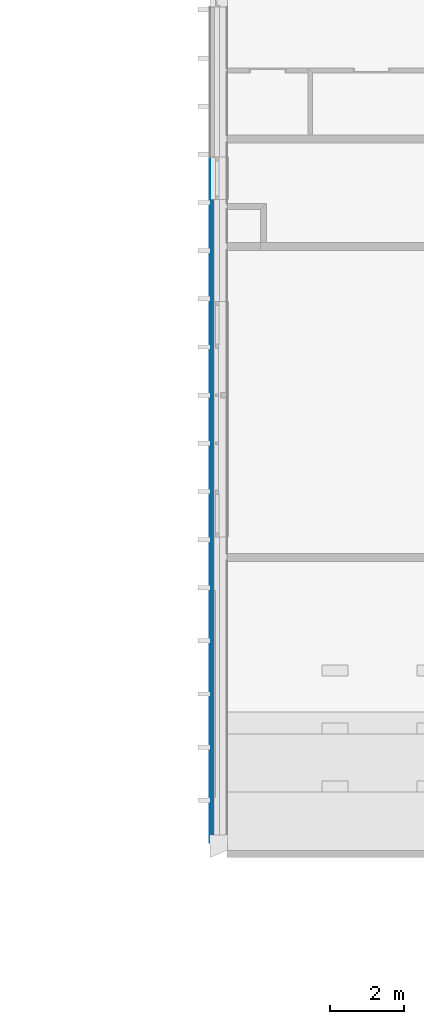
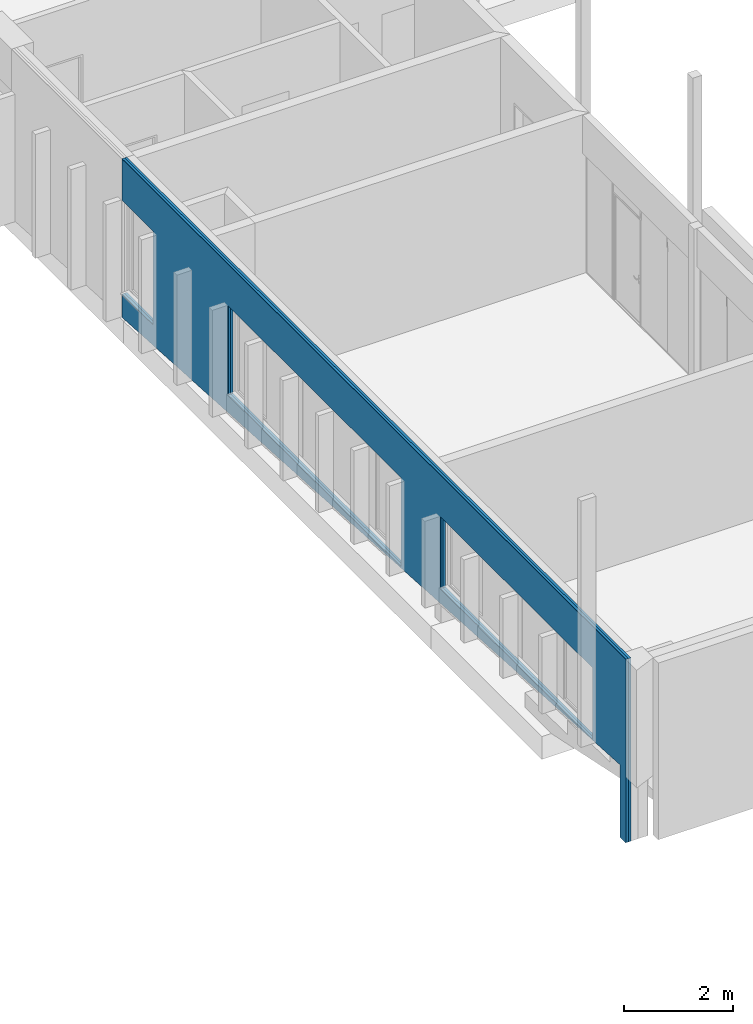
# One storey, part 62 of 65: 3 building element parts, 3 openings, 1 element without a shape of its own.
"""IFC2X3 building model written with IfcOpenShell, lengths in millimetres."""

from ifc_helpers import new_model, entity, si_unit, converted_unit, derived_unit, money_unit, direction, frame, origin_with_axes, origin_2d_with_axis, place, context, subcontext, project, spatial, polyline, rectangle, outline, extrude, boolean, faceted_brep, material, type_object, element, aggregate, save


model = new_model("IFC2X3")

# Units and contexts
model_context = context("Model", 3, precision=0.01, world=origin_with_axes(), true_north=direction((0.0, 1.0)))
body_context = subcontext(model_context, "Body", "Model", "MODEL_VIEW")
ifc_project = project(units=[si_unit("LENGTHUNIT", "METRE", prefix="MILLI"), si_unit("AREAUNIT", "SQUARE_METRE"), si_unit("VOLUMEUNIT", "CUBIC_METRE"), converted_unit("PLANEANGLEUNIT", "DEGREE", entity("IfcPlaneAngleMeasure", 0.0174532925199), si_unit("PLANEANGLEUNIT", "RADIAN"), dimensions=[0, 0, 0, 0, 0, 0, 0]), si_unit("SOLIDANGLEUNIT", "STERADIAN"), money_unit("EUR"), converted_unit("TIMEUNIT", "Year", entity("IfcTimeMeasure", 31556926.0), si_unit("TIMEUNIT", "SECOND"), dimensions=[0, 0, 1, 0, 0, 0, 0]), si_unit("MASSUNIT", "GRAM", prefix="KILO"), si_unit("THERMODYNAMICTEMPERATUREUNIT", "DEGREE_CELSIUS"), si_unit("LUMINOUSINTENSITYUNIT", "LUMEN"), si_unit("ENERGYUNIT", "JOULE", prefix="MEGA"), derived_unit("THERMALCONDUCTANCEUNIT", [(si_unit("POWERUNIT", "WATT"), 1), (si_unit("LENGTHUNIT", "METRE"), -1), (si_unit("THERMODYNAMICTEMPERATUREUNIT", "KELVIN"), -1)]), derived_unit("SPECIFICHEATCAPACITYUNIT", [(si_unit("ENERGYUNIT", "JOULE"), 1), (si_unit("MASSUNIT", "GRAM", prefix="KILO"), -1), (si_unit("THERMODYNAMICTEMPERATUREUNIT", "KELVIN"), -1)]), derived_unit("MASSDENSITYUNIT", [(si_unit("MASSUNIT", "GRAM", prefix="KILO"), 1), (si_unit("VOLUMEUNIT", "CUBIC_METRE"), -1)])], contexts=[model_context])

# Site, building, storey
site_placement = place(None, origin_with_axes())
site = spatial("IfcSite", under=ifc_project, at=site_placement, Name="Puškini 31, Narva", CompositionType="ELEMENT")
building_placement = place(site_placement, origin_with_axes())
building = spatial("IfcBuilding", under=site, at=building_placement, Name="Narva Riigigümnaasium", CompositionType="ELEMENT")
storey_placement = place(building_placement, frame((0.0, 0.0, -1320.0), z_axis=(0.0, 0.0, 1.0), x_axis=(1.0, 0.0, 0.0)))
storey = spatial("IfcBuildingStorey", under=building, at=storey_placement, Name="1.korrus -1.32", CompositionType="ELEMENT", Elevation=-1320.0)

# Wall, openings, building element parts
wall_type = type_object("IfcWallType", Name="G-VS-01 468", PredefinedType="NOTDEFINED")
wall_placement = place(storey_placement, frame((22399.9999985, 159399.999992, -150.0), z_axis=(0.0, 0.0, 1.0), x_axis=(0.0, 1.0, 0.0)))
wall = element("IfcWall", 1, at=wall_placement, inside=storey, type_object=wall_type, Name="Välissein")
opening_1_placement = place(wall_placement, frame((11435.1499909, 0.0, 1180.0), z_axis=(0.0, 0.0, 1.0), x_axis=(1.0, 0.0, 0.0)))
element("IfcOpeningElement", 2, at=opening_1_placement, cuts=wall, Name="G-A-34", context=body_context, shape_type="SweptSolid", body=[
    extrude(rectangle(XDim=6350.0, YDim=2000.0, at=origin_2d_with_axis()), frame((0.0, 308.0, 1000.0), z_axis=(0.0, 1.0, 0.0), x_axis=(-1.0, 0.0, 0.0)), (0.0, 0.0, -1.0), 786.0),
    extrude(rectangle(XDim=6350.0, YDim=2000.0, at=origin_2d_with_axis()), frame((0.0, 308.0, 1000.0), z_axis=(0.0, -1.0, 0.0), x_axis=(-1.0, 0.0, 0.0)), (0.0, 0.0, -1.0), 618.0),
])
opening_2_placement = place(wall_placement, frame((17935.1499909, 0.0, 1080.0), z_axis=(0.0, 0.0, 1.0), x_axis=(1.0, 0.0, 0.0)))
element("IfcOpeningElement", 3, at=opening_2_placement, cuts=wall, Name="G-A-29", context=body_context, shape_type="SweptSolid", body=[
    extrude(rectangle(XDim=1150.0, YDim=2100.0, at=origin_2d_with_axis()), frame((0.0, 308.0, 1050.0), z_axis=(0.0, 1.0, 0.0), x_axis=(-1.0, 0.0, 0.0)), (0.0, 0.0, -1.0), 786.0),
    extrude(rectangle(XDim=1150.0, YDim=2100.0, at=origin_2d_with_axis()), frame((0.0, 308.0, 1050.0), z_axis=(0.0, -1.0, 0.0), x_axis=(-1.0, 0.0, 0.0)), (0.0, 0.0, -1.0), 618.0),
])
opening_3_placement = place(wall_placement, frame((4017.57498516, 0.0, 1570.0), z_axis=(0.0, 0.0, 1.0), x_axis=(1.0, 0.0, 0.0)))
element("IfcOpeningElement", 4, at=opening_3_placement, cuts=wall, Name="G-A-33", context=body_context, shape_type="SweptSolid", body=[
    extrude(rectangle(XDim=5585.15001141, YDim=1610.0, at=origin_2d_with_axis()), frame((0.0, 308.0, 805.0), z_axis=(0.0, 1.0, 0.0), x_axis=(-1.0, 0.0, 0.0)), (0.0, 0.0, -1.0), 786.0),
    extrude(rectangle(XDim=5585.15001141, YDim=1610.0, at=origin_2d_with_axis()), frame((0.0, 308.0, 805.0), z_axis=(0.0, -1.0, 0.0), x_axis=(-1.0, 0.0, 0.0)), (0.0, 0.0, -1.0), 618.0),
])
ifc_material_1 = material(Name="Salto-PIR soojustus")
building_element_part_1_placement = place(wall_placement, origin_with_axes())
solid_1 = boolean("DIFFERENCE", boolean("DIFFERENCE", boolean("DIFFERENCE", boolean("DIFFERENCE", boolean("DIFFERENCE", boolean("DIFFERENCE", boolean("DIFFERENCE", boolean("DIFFERENCE", extrude(outline(polyline([(-249.999991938, 350.0), (18510.1499995, 350.0), (18510.1499995, 400.0), (-249.999991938, 400.0), (-249.999991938, 350.0)])), origin_with_axes(), (0.0, 0.0, 1.0), 4110.0), faceted_brep([(17250.0001235, 0.0, 632.298081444), (18510.1499995, 0.0, 559.236469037), (18510.1499995, 0.0, 0.0), (210.000008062, 0.0, 0.0), (210.000008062, 0.0, 1620.25190156), (7609.99994589, 0.0, 1191.21092985), (7609.99994359, 0.0, 3705.0), (1.23677068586e-06, 0.0, 3705.0), (8.06181787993e-06, 0.0, 1470.0), (8.06181787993e-06, 0.0, 640.0), (0.0, 0.0, 0.0), (-249.999991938, 0.0, 0.0), (-249.999991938, 0.0, 4110.0), (18510.1499995, 0.0, 4110.0), (18510.1499995, 0.0, 3705.0), (17250.0001235, 0.0, 3705.0), (7799.99994358, 0.0, 1180.19501305), (16000.0001235, 0.0, 704.771219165), (16000.0001235, 0.0, 3705.0), (7799.99994358, 0.0, 3705.0), (16200.0001235, 0.0, 693.17551713), (17100.0001235, 0.0, 640.994857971), (17100.0001235, 0.0, 3705.0), (16200.0001235, 0.0, 3705.0), (17250.0001235, -10.0, 632.298081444), (18510.1499995, -10.0, 559.236469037), (18510.1499995, -10.0, 0.0), (210.000008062, -10.0, 0.0), (210.000008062, -10.0, 1620.25190156), (7609.99994589, -10.0, 1191.21092985), (7609.99994359, -10.0, 3705.0), (1.23677068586e-06, -10.0, 3705.0), (8.06181787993e-06, -10.0, 1470.0), (8.06181787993e-06, -10.0, 640.0), (0.0, -10.0, 0.0), (-249.999991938, -10.0, 0.0), (-249.999991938, -10.0, 4110.0), (18510.1499995, -10.0, 4110.0), (18510.1499995, -9.99999999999, 3705.0), (17250.0001235, -10.0, 3705.0), (7799.99994358, -10.0, 1180.19501305), (16000.0001235, -10.0, 704.771219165), (16000.0001235, -10.0, 3705.0), (7799.99994358, -10.0, 3705.0), (16200.0001235, -10.0, 693.17551713), (17100.0001235, -10.0, 640.994857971), (17100.0001235, -10.0, 3705.0), (16200.0001235, -10.0, 3705.0)], [[[0, 1, 2, 3, 4, 5, 6, 7, 8, 9, 10, 11, 12, 13, 14, 15], [16, 17, 18, 19], [20, 21, 22, 23]], [[24, 25, 1, 0]], [[1, 25, 26, 2]], [[27, 3, 2, 26]], [[27, 28, 4, 3]], [[28, 29, 5, 4]], [[29, 30, 6, 5]], [[30, 31, 7, 6]], [[31, 32, 33, 34, 10, 9, 8, 7]], [[10, 34, 35, 11]], [[36, 12, 11, 35]], [[13, 12, 36, 37]], [[38, 14, 13, 37]], [[14, 38, 39, 15]], [[39, 24, 0, 15]], [[40, 41, 17, 16]], [[41, 42, 18, 17]], [[42, 43, 19, 18]], [[43, 40, 16, 19]], [[44, 45, 21, 20]], [[45, 46, 22, 21]], [[46, 47, 23, 22]], [[47, 44, 20, 23]], [[24, 39, 38, 37, 36, 35, 34, 33, 32, 31, 30, 29, 28, 27, 26, 25], [40, 43, 42, 41], [44, 47, 46, 45]]])), faceted_brep([(18510.1499995, 200.0, 559.236469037), (18510.1499995, 0.0, 559.236469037), (18510.1499995, 0.0, 0.0), (18510.1499995, 200.0, 0.0), (17250.0001235, 0.0, 632.298081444), (210.000008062, 200.0, 1620.25190156), (210.000008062, 0.0, 1620.25190156), (7609.99994589, 0.0, 1191.21092985), (7799.99994358, 0.0, 1180.19501305), (16000.0001235, 0.0, 704.771219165), (16200.0001235, 0.0, 693.17551713), (17100.0001235, 0.0, 640.994857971), (210.000008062, 0.0, 0.0), (210.000008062, 200.0, 0.0)], [[[0, 1, 2, 3]], [[4, 1, 0, 5, 6, 7, 8, 9, 10, 11]], [[6, 12, 2, 1, 4, 11, 10, 9, 8, 7]], [[12, 13, 3, 2]], [[5, 0, 3, 13]], [[12, 6, 5, 13]]])), faceted_brep([(18510.1499995, 0.0, 3705.0), (18510.1499995, 0.0, 4110.0), (-249.999991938, 0.0, 4110.0), (-249.999991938, 0.0, 0.0), (0.0, 0.0, 0.0), (8.06181787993e-06, 0.0, 640.0), (8.06181787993e-06, 0.0, 1470.0), (1.23677068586e-06, 0.0, 3705.0), (18510.1499995, 199.999955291, 3705.0), (18510.1499995, 200.0, 4110.0), (-249.999991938, 200.0, 4110.0), (-249.999991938, 200.0, 0.0), (0.0, 200.0, 0.0), (8.06181787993e-06, 200.0, 640.0), (8.06181787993e-06, 200.0, 1470.0), (1.23674226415e-06, 199.999955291, 3705.0)], [[[0, 1, 2, 3, 4, 5, 6, 7]], [[0, 8, 9, 1]], [[9, 10, 2, 1]], [[2, 10, 11, 3]], [[12, 4, 3, 11]], [[5, 4, 12, 13]], [[13, 14, 6, 5]], [[7, 6, 14, 15]], [[8, 0, 7, 15]], [[13, 12, 11, 10, 9, 8, 15, 14]]])), faceted_brep([(12010.1512799, 25.0, 3250.0), (12010.1512799, 175.0, 3250.0), (12010.1512799, 175.0, 1080.0), (12010.1512799, 25.0, 1080.0), (12160.1512799, 25.0, 3250.0), (12160.1512799, 175.0, 3250.0), (12160.1512799, 175.0, 1080.0), (12160.1512799, 25.0, 1080.0)], [[[0, 1, 2, 3]], [[4, 5, 1, 0]], [[1, 5, 6, 2]], [[7, 3, 2, 6]], [[4, 0, 3, 7]], [[5, 4, 7, 6]]])), faceted_brep([(8.06181787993e-06, 200.0, 1470.0), (1.23674226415e-06, 199.999955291, 3705.0), (0.0, 200.0, 4110.0), (-249.999991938, 200.0, 4110.0), (-249.999991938, 200.0, 0.0), (0.0, 200.0, 0.0), (8.06181787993e-06, 200.0, 640.0), (0.0, 350.0, 4110.0), (8.06181787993e-06, 350.0, 1470.0), (-249.999991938, 350.0, 4110.0), (-249.999991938, 350.0, 0.0), (0.0, 350.0, 0.0), (8.06181787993e-06, 350.0, 640.0)], [[[0, 1, 2, 3, 4, 5, 6]], [[7, 2, 1, 0, 8]], [[2, 7, 9, 3]], [[3, 9, 10, 4]], [[11, 5, 4, 10]], [[6, 5, 11, 12]], [[12, 8, 0, 6]], [[12, 11, 10, 9, 7, 8]]])), faceted_brep([(18510.1499995, 350.0, 559.236469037), (18510.1499995, 200.0, 559.236469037), (18510.1499995, 200.0, 0.0), (18510.1499995, 350.0, 0.0), (210.000008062, 200.0, 1620.25190156), (210.000008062, 350.0, 1620.25190156), (210.000008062, 200.0, 0.0), (210.000008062, 350.0, 0.0)], [[[0, 1, 2, 3]], [[4, 1, 0, 5]], [[4, 6, 2, 1]], [[6, 7, 3, 2]], [[5, 0, 3, 7]], [[6, 4, 5, 7]]])), faceted_brep([(8.06181787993e-06, 350.0, 640.0), (8.06181787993e-06, 350.0, 1470.0), (0.0, 350.0, 4110.0), (-249.999991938, 350.0, 4110.0), (-249.999991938, 350.0, 0.0), (0.0, 350.0, 0.0), (8.06181787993e-06, 400.0, 640.0), (8.06181787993e-06, 400.0, 1470.0), (0.0, 400.0, 4110.0), (-249.999991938, 400.0, 4110.0), (-249.999991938, 400.0, 0.0), (0.0, 400.0, 0.0)], [[[0, 1, 2, 3, 4, 5]], [[1, 0, 6, 7]], [[8, 2, 1, 7]], [[2, 8, 9, 3]], [[3, 9, 10, 4]], [[11, 5, 4, 10]], [[0, 5, 11, 6]], [[6, 11, 10, 9, 8, 7]]])), faceted_brep([(18510.1499995, 400.0, 559.236469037), (18510.1499995, 350.0, 559.236469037), (18510.1499995, 350.0, 0.0), (18510.1499995, 400.0, 0.0), (210.000008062, 350.0, 1620.25190156), (210.000008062, 400.0, 1620.25190156), (210.000008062, 350.0, 0.0), (210.000008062, 400.0, 0.0)], [[[0, 1, 2, 3]], [[4, 1, 0, 5]], [[4, 6, 2, 1]], [[6, 7, 3, 2]], [[5, 0, 3, 7]], [[6, 4, 5, 7]]]))
building_element_part_1 = element("IfcBuildingElementPart", 5, at=building_element_part_1_placement, material=ifc_material_1, Name="Salto-PIR soojustus", context=body_context, shape_type="CSG", body=[
    boolean("DIFFERENCE", boolean("DIFFERENCE", boolean("DIFFERENCE", boolean("DIFFERENCE", solid_1, faceted_brep([(8.06181787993e-06, 400.0, 640.0), (8.06181787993e-06, 400.0, 1470.0), (0.0, 400.0, 4110.0), (-249.999991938, 400.0, 4110.0), (-249.999991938, 400.0, 0.0), (0.0, 400.0, 0.0), (8.06181787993e-06, 450.0, 640.0), (8.06181787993e-06, 450.0, 1470.0), (0.0, 450.0, 4110.0), (-249.999991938, 450.0, 4110.0), (-249.999991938, 450.0, 0.0), (0.0, 450.0, 0.0)], [[[0, 1, 2, 3, 4, 5]], [[1, 0, 6, 7]], [[8, 2, 1, 7]], [[2, 8, 9, 3]], [[9, 10, 4, 3]], [[11, 5, 4, 10]], [[0, 5, 11, 6]], [[6, 11, 10, 9, 8, 7]]])), faceted_brep([(18510.1499995, 450.0, 559.236469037), (18510.1499995, 400.0, 559.236469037), (18510.1499995, 400.0, 0.0), (18510.1499995, 450.0, 0.0), (210.000008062, 400.0, 1620.25190156), (210.000008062, 450.0, 1620.25190156), (210.000008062, 400.0, 0.0), (210.000008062, 450.0, 0.0)], [[[0, 1, 2, 3]], [[4, 1, 0, 5]], [[4, 6, 2, 1]], [[6, 7, 3, 2]], [[5, 0, 3, 7]], [[6, 4, 5, 7]]])), faceted_brep([(8.06181787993e-06, 450.0, 640.0), (8.06181787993e-06, 450.0, 1470.0), (0.0, 450.0, 4110.0), (-249.999991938, 450.0, 4110.0), (-249.999991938, 450.0, 0.0), (0.0, 450.0, 0.0), (8.06181787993e-06, 458.0, 640.0), (8.06181787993e-06, 458.0, 1470.0), (0.0, 458.0, 4110.0), (-249.999991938, 458.0, 4110.0), (-249.999991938, 458.0, 0.0), (0.0, 458.0, 0.0)], [[[0, 1, 2, 3, 4, 5]], [[1, 0, 6, 7]], [[8, 2, 1, 7]], [[2, 8, 9, 3]], [[9, 10, 4, 3]], [[11, 5, 4, 10]], [[0, 5, 11, 6]], [[6, 11, 10, 9, 8, 7]]])), faceted_brep([(18510.1499995, 458.0, 559.236469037), (18510.1499995, 450.0, 559.236469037), (18510.1499995, 450.0, 0.0), (18510.1499995, 458.0, 0.0), (210.000008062, 450.0, 1620.25190156), (210.000008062, 458.0, 1620.25190156), (210.000008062, 450.0, 0.0), (210.000008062, 458.0, 0.0)], [[[0, 1, 2, 3]], [[4, 1, 0, 5]], [[4, 6, 2, 1]], [[6, 7, 3, 2]], [[5, 0, 3, 7]], [[6, 4, 5, 7]]])),
])
ifc_material_2 = material(Name="Salto-roovitus")
building_element_part_2_placement = place(wall_placement, origin_with_axes())
solid_2 = boolean("DIFFERENCE", boolean("DIFFERENCE", boolean("DIFFERENCE", boolean("DIFFERENCE", boolean("DIFFERENCE", boolean("DIFFERENCE", boolean("DIFFERENCE", boolean("DIFFERENCE", extrude(outline(polyline([(-249.999991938, 400.0), (18510.1499995, 400.0), (18510.1499995, 450.0), (-249.999991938, 450.0), (-249.999991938, 400.0)])), origin_with_axes(), (0.0, 0.0, 1.0), 4110.0), faceted_brep([(17250.0001235, 0.0, 632.298081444), (18510.1499995, 0.0, 559.236469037), (18510.1499995, 0.0, 0.0), (210.000008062, 0.0, 0.0), (210.000008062, 0.0, 1620.25190156), (7609.99994589, 0.0, 1191.21092985), (7609.99994359, 0.0, 3705.0), (1.23677068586e-06, 0.0, 3705.0), (8.06181787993e-06, 0.0, 1470.0), (8.06181787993e-06, 0.0, 640.0), (0.0, 0.0, 0.0), (-249.999991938, 0.0, 0.0), (-249.999991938, 0.0, 4110.0), (18510.1499995, 0.0, 4110.0), (18510.1499995, 0.0, 3705.0), (17250.0001235, 0.0, 3705.0), (7799.99994358, 0.0, 1180.19501305), (16000.0001235, 0.0, 704.771219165), (16000.0001235, 0.0, 3705.0), (7799.99994358, 0.0, 3705.0), (16200.0001235, 0.0, 693.17551713), (17100.0001235, 0.0, 640.994857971), (17100.0001235, 0.0, 3705.0), (16200.0001235, 0.0, 3705.0), (17250.0001235, -10.0, 632.298081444), (18510.1499995, -10.0, 559.236469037), (18510.1499995, -10.0, 0.0), (210.000008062, -10.0, 0.0), (210.000008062, -10.0, 1620.25190156), (7609.99994589, -10.0, 1191.21092985), (7609.99994359, -10.0, 3705.0), (1.23677068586e-06, -10.0, 3705.0), (8.06181787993e-06, -10.0, 1470.0), (8.06181787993e-06, -10.0, 640.0), (0.0, -10.0, 0.0), (-249.999991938, -10.0, 0.0), (-249.999991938, -10.0, 4110.0), (18510.1499995, -10.0, 4110.0), (18510.1499995, -9.99999999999, 3705.0), (17250.0001235, -10.0, 3705.0), (7799.99994358, -10.0, 1180.19501305), (16000.0001235, -10.0, 704.771219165), (16000.0001235, -10.0, 3705.0), (7799.99994358, -10.0, 3705.0), (16200.0001235, -10.0, 693.17551713), (17100.0001235, -10.0, 640.994857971), (17100.0001235, -10.0, 3705.0), (16200.0001235, -10.0, 3705.0)], [[[0, 1, 2, 3, 4, 5, 6, 7, 8, 9, 10, 11, 12, 13, 14, 15], [16, 17, 18, 19], [20, 21, 22, 23]], [[24, 25, 1, 0]], [[1, 25, 26, 2]], [[27, 3, 2, 26]], [[27, 28, 4, 3]], [[28, 29, 5, 4]], [[29, 30, 6, 5]], [[30, 31, 7, 6]], [[31, 32, 33, 34, 10, 9, 8, 7]], [[10, 34, 35, 11]], [[36, 12, 11, 35]], [[13, 12, 36, 37]], [[38, 14, 13, 37]], [[14, 38, 39, 15]], [[39, 24, 0, 15]], [[40, 41, 17, 16]], [[41, 42, 18, 17]], [[42, 43, 19, 18]], [[43, 40, 16, 19]], [[44, 45, 21, 20]], [[45, 46, 22, 21]], [[46, 47, 23, 22]], [[47, 44, 20, 23]], [[24, 39, 38, 37, 36, 35, 34, 33, 32, 31, 30, 29, 28, 27, 26, 25], [40, 43, 42, 41], [44, 47, 46, 45]]])), faceted_brep([(18510.1499995, 200.0, 559.236469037), (18510.1499995, 0.0, 559.236469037), (18510.1499995, 0.0, 0.0), (18510.1499995, 200.0, 0.0), (17250.0001235, 0.0, 632.298081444), (210.000008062, 200.0, 1620.25190156), (210.000008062, 0.0, 1620.25190156), (7609.99994589, 0.0, 1191.21092985), (7799.99994358, 0.0, 1180.19501305), (16000.0001235, 0.0, 704.771219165), (16200.0001235, 0.0, 693.17551713), (17100.0001235, 0.0, 640.994857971), (210.000008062, 0.0, 0.0), (210.000008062, 200.0, 0.0)], [[[0, 1, 2, 3]], [[4, 1, 0, 5, 6, 7, 8, 9, 10, 11]], [[6, 12, 2, 1, 4, 11, 10, 9, 8, 7]], [[12, 13, 3, 2]], [[5, 0, 3, 13]], [[12, 6, 5, 13]]])), faceted_brep([(18510.1499995, 0.0, 3705.0), (18510.1499995, 0.0, 4110.0), (-249.999991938, 0.0, 4110.0), (-249.999991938, 0.0, 0.0), (0.0, 0.0, 0.0), (8.06181787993e-06, 0.0, 640.0), (8.06181787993e-06, 0.0, 1470.0), (1.23677068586e-06, 0.0, 3705.0), (18510.1499995, 199.999955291, 3705.0), (18510.1499995, 200.0, 4110.0), (-249.999991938, 200.0, 4110.0), (-249.999991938, 200.0, 0.0), (0.0, 200.0, 0.0), (8.06181787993e-06, 200.0, 640.0), (8.06181787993e-06, 200.0, 1470.0), (1.23674226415e-06, 199.999955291, 3705.0)], [[[0, 1, 2, 3, 4, 5, 6, 7]], [[0, 8, 9, 1]], [[9, 10, 2, 1]], [[2, 10, 11, 3]], [[12, 4, 3, 11]], [[5, 4, 12, 13]], [[13, 14, 6, 5]], [[7, 6, 14, 15]], [[8, 0, 7, 15]], [[13, 12, 11, 10, 9, 8, 15, 14]]])), faceted_brep([(12010.1512799, 25.0, 3250.0), (12010.1512799, 175.0, 3250.0), (12010.1512799, 175.0, 1080.0), (12010.1512799, 25.0, 1080.0), (12160.1512799, 25.0, 3250.0), (12160.1512799, 175.0, 3250.0), (12160.1512799, 175.0, 1080.0), (12160.1512799, 25.0, 1080.0)], [[[0, 1, 2, 3]], [[4, 5, 1, 0]], [[1, 5, 6, 2]], [[7, 3, 2, 6]], [[4, 0, 3, 7]], [[5, 4, 7, 6]]])), faceted_brep([(8.06181787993e-06, 200.0, 1470.0), (1.23674226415e-06, 199.999955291, 3705.0), (0.0, 200.0, 4110.0), (-249.999991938, 200.0, 4110.0), (-249.999991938, 200.0, 0.0), (0.0, 200.0, 0.0), (8.06181787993e-06, 200.0, 640.0), (0.0, 350.0, 4110.0), (8.06181787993e-06, 350.0, 1470.0), (-249.999991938, 350.0, 4110.0), (-249.999991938, 350.0, 0.0), (0.0, 350.0, 0.0), (8.06181787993e-06, 350.0, 640.0)], [[[0, 1, 2, 3, 4, 5, 6]], [[7, 2, 1, 0, 8]], [[2, 7, 9, 3]], [[3, 9, 10, 4]], [[11, 5, 4, 10]], [[6, 5, 11, 12]], [[12, 8, 0, 6]], [[12, 11, 10, 9, 7, 8]]])), faceted_brep([(18510.1499995, 350.0, 559.236469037), (18510.1499995, 200.0, 559.236469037), (18510.1499995, 200.0, 0.0), (18510.1499995, 350.0, 0.0), (210.000008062, 200.0, 1620.25190156), (210.000008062, 350.0, 1620.25190156), (210.000008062, 200.0, 0.0), (210.000008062, 350.0, 0.0)], [[[0, 1, 2, 3]], [[4, 1, 0, 5]], [[4, 6, 2, 1]], [[6, 7, 3, 2]], [[5, 0, 3, 7]], [[6, 4, 5, 7]]])), faceted_brep([(8.06181787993e-06, 350.0, 640.0), (8.06181787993e-06, 350.0, 1470.0), (0.0, 350.0, 4110.0), (-249.999991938, 350.0, 4110.0), (-249.999991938, 350.0, 0.0), (0.0, 350.0, 0.0), (8.06181787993e-06, 400.0, 640.0), (8.06181787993e-06, 400.0, 1470.0), (0.0, 400.0, 4110.0), (-249.999991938, 400.0, 4110.0), (-249.999991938, 400.0, 0.0), (0.0, 400.0, 0.0)], [[[0, 1, 2, 3, 4, 5]], [[1, 0, 6, 7]], [[8, 2, 1, 7]], [[2, 8, 9, 3]], [[3, 9, 10, 4]], [[11, 5, 4, 10]], [[0, 5, 11, 6]], [[6, 11, 10, 9, 8, 7]]])), faceted_brep([(18510.1499995, 400.0, 559.236469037), (18510.1499995, 350.0, 559.236469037), (18510.1499995, 350.0, 0.0), (18510.1499995, 400.0, 0.0), (210.000008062, 350.0, 1620.25190156), (210.000008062, 400.0, 1620.25190156), (210.000008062, 350.0, 0.0), (210.000008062, 400.0, 0.0)], [[[0, 1, 2, 3]], [[4, 1, 0, 5]], [[4, 6, 2, 1]], [[6, 7, 3, 2]], [[5, 0, 3, 7]], [[6, 4, 5, 7]]]))
building_element_part_2 = element("IfcBuildingElementPart", 6, at=building_element_part_2_placement, material=ifc_material_2, Name="Salto-roovitus", context=body_context, shape_type="CSG", body=[
    boolean("DIFFERENCE", boolean("DIFFERENCE", boolean("DIFFERENCE", boolean("DIFFERENCE", solid_2, faceted_brep([(8.06181787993e-06, 400.0, 640.0), (8.06181787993e-06, 400.0, 1470.0), (0.0, 400.0, 4110.0), (-249.999991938, 400.0, 4110.0), (-249.999991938, 400.0, 0.0), (0.0, 400.0, 0.0), (8.06181787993e-06, 450.0, 640.0), (8.06181787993e-06, 450.0, 1470.0), (0.0, 450.0, 4110.0), (-249.999991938, 450.0, 4110.0), (-249.999991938, 450.0, 0.0), (0.0, 450.0, 0.0)], [[[0, 1, 2, 3, 4, 5]], [[1, 0, 6, 7]], [[8, 2, 1, 7]], [[2, 8, 9, 3]], [[9, 10, 4, 3]], [[11, 5, 4, 10]], [[0, 5, 11, 6]], [[6, 11, 10, 9, 8, 7]]])), faceted_brep([(18510.1499995, 450.0, 559.236469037), (18510.1499995, 400.0, 559.236469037), (18510.1499995, 400.0, 0.0), (18510.1499995, 450.0, 0.0), (210.000008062, 400.0, 1620.25190156), (210.000008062, 450.0, 1620.25190156), (210.000008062, 400.0, 0.0), (210.000008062, 450.0, 0.0)], [[[0, 1, 2, 3]], [[4, 1, 0, 5]], [[4, 6, 2, 1]], [[6, 7, 3, 2]], [[5, 0, 3, 7]], [[6, 4, 5, 7]]])), faceted_brep([(8.06181787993e-06, 450.0, 640.0), (8.06181787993e-06, 450.0, 1470.0), (0.0, 450.0, 4110.0), (-249.999991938, 450.0, 4110.0), (-249.999991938, 450.0, 0.0), (0.0, 450.0, 0.0), (8.06181787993e-06, 458.0, 640.0), (8.06181787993e-06, 458.0, 1470.0), (0.0, 458.0, 4110.0), (-249.999991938, 458.0, 4110.0), (-249.999991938, 458.0, 0.0), (0.0, 458.0, 0.0)], [[[0, 1, 2, 3, 4, 5]], [[1, 0, 6, 7]], [[8, 2, 1, 7]], [[2, 8, 9, 3]], [[9, 10, 4, 3]], [[11, 5, 4, 10]], [[0, 5, 11, 6]], [[6, 11, 10, 9, 8, 7]]])), faceted_brep([(18510.1499995, 458.0, 559.236469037), (18510.1499995, 450.0, 559.236469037), (18510.1499995, 450.0, 0.0), (18510.1499995, 458.0, 0.0), (210.000008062, 450.0, 1620.25190156), (210.000008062, 458.0, 1620.25190156), (210.000008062, 450.0, 0.0), (210.000008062, 458.0, 0.0)], [[[0, 1, 2, 3]], [[4, 1, 0, 5]], [[4, 6, 2, 1]], [[6, 7, 3, 2]], [[5, 0, 3, 7]], [[6, 4, 5, 7]]])),
])
ifc_material_3 = material(Name="fassaadiplaat")
building_element_part_3_placement = place(wall_placement, origin_with_axes())
solid_3 = boolean("DIFFERENCE", boolean("DIFFERENCE", boolean("DIFFERENCE", boolean("DIFFERENCE", boolean("DIFFERENCE", boolean("DIFFERENCE", boolean("DIFFERENCE", boolean("DIFFERENCE", extrude(outline(polyline([(-249.999991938, 450.0), (18510.1499995, 450.0), (18510.1499995, 458.0), (-249.999991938, 458.0), (-249.999991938, 450.0)])), origin_with_axes(), (0.0, 0.0, 1.0), 4110.0), faceted_brep([(17250.0001235, 0.0, 632.298081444), (18510.1499995, 0.0, 559.236469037), (18510.1499995, 0.0, 0.0), (210.000008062, 0.0, 0.0), (210.000008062, 0.0, 1620.25190156), (7609.99994589, 0.0, 1191.21092985), (7609.99994359, 0.0, 3705.0), (1.23677068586e-06, 0.0, 3705.0), (8.06181787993e-06, 0.0, 1470.0), (8.06181787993e-06, 0.0, 640.0), (0.0, 0.0, 0.0), (-249.999991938, 0.0, 0.0), (-249.999991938, 0.0, 4110.0), (18510.1499995, 0.0, 4110.0), (18510.1499995, 0.0, 3705.0), (17250.0001235, 0.0, 3705.0), (7799.99994358, 0.0, 1180.19501305), (16000.0001235, 0.0, 704.771219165), (16000.0001235, 0.0, 3705.0), (7799.99994358, 0.0, 3705.0), (16200.0001235, 0.0, 693.17551713), (17100.0001235, 0.0, 640.994857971), (17100.0001235, 0.0, 3705.0), (16200.0001235, 0.0, 3705.0), (17250.0001235, -10.0, 632.298081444), (18510.1499995, -10.0, 559.236469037), (18510.1499995, -10.0, 0.0), (210.000008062, -10.0, 0.0), (210.000008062, -10.0, 1620.25190156), (7609.99994589, -10.0, 1191.21092985), (7609.99994359, -10.0, 3705.0), (1.23677068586e-06, -10.0, 3705.0), (8.06181787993e-06, -10.0, 1470.0), (8.06181787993e-06, -10.0, 640.0), (0.0, -10.0, 0.0), (-249.999991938, -10.0, 0.0), (-249.999991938, -10.0, 4110.0), (18510.1499995, -10.0, 4110.0), (18510.1499995, -9.99999999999, 3705.0), (17250.0001235, -10.0, 3705.0), (7799.99994358, -10.0, 1180.19501305), (16000.0001235, -10.0, 704.771219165), (16000.0001235, -10.0, 3705.0), (7799.99994358, -10.0, 3705.0), (16200.0001235, -10.0, 693.17551713), (17100.0001235, -10.0, 640.994857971), (17100.0001235, -10.0, 3705.0), (16200.0001235, -10.0, 3705.0)], [[[0, 1, 2, 3, 4, 5, 6, 7, 8, 9, 10, 11, 12, 13, 14, 15], [16, 17, 18, 19], [20, 21, 22, 23]], [[24, 25, 1, 0]], [[1, 25, 26, 2]], [[27, 3, 2, 26]], [[27, 28, 4, 3]], [[28, 29, 5, 4]], [[29, 30, 6, 5]], [[30, 31, 7, 6]], [[31, 32, 33, 34, 10, 9, 8, 7]], [[10, 34, 35, 11]], [[36, 12, 11, 35]], [[13, 12, 36, 37]], [[38, 14, 13, 37]], [[14, 38, 39, 15]], [[39, 24, 0, 15]], [[40, 41, 17, 16]], [[41, 42, 18, 17]], [[42, 43, 19, 18]], [[43, 40, 16, 19]], [[44, 45, 21, 20]], [[45, 46, 22, 21]], [[46, 47, 23, 22]], [[47, 44, 20, 23]], [[24, 39, 38, 37, 36, 35, 34, 33, 32, 31, 30, 29, 28, 27, 26, 25], [40, 43, 42, 41], [44, 47, 46, 45]]])), faceted_brep([(18510.1499995, 200.0, 559.236469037), (18510.1499995, 0.0, 559.236469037), (18510.1499995, 0.0, 0.0), (18510.1499995, 200.0, 0.0), (17250.0001235, 0.0, 632.298081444), (210.000008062, 200.0, 1620.25190156), (210.000008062, 0.0, 1620.25190156), (7609.99994589, 0.0, 1191.21092985), (7799.99994358, 0.0, 1180.19501305), (16000.0001235, 0.0, 704.771219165), (16200.0001235, 0.0, 693.17551713), (17100.0001235, 0.0, 640.994857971), (210.000008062, 0.0, 0.0), (210.000008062, 200.0, 0.0)], [[[0, 1, 2, 3]], [[4, 1, 0, 5, 6, 7, 8, 9, 10, 11]], [[6, 12, 2, 1, 4, 11, 10, 9, 8, 7]], [[12, 13, 3, 2]], [[5, 0, 3, 13]], [[12, 6, 5, 13]]])), faceted_brep([(18510.1499995, 0.0, 3705.0), (18510.1499995, 0.0, 4110.0), (-249.999991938, 0.0, 4110.0), (-249.999991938, 0.0, 0.0), (0.0, 0.0, 0.0), (8.06181787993e-06, 0.0, 640.0), (8.06181787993e-06, 0.0, 1470.0), (1.23677068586e-06, 0.0, 3705.0), (18510.1499995, 199.999955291, 3705.0), (18510.1499995, 200.0, 4110.0), (-249.999991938, 200.0, 4110.0), (-249.999991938, 200.0, 0.0), (0.0, 200.0, 0.0), (8.06181787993e-06, 200.0, 640.0), (8.06181787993e-06, 200.0, 1470.0), (1.23674226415e-06, 199.999955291, 3705.0)], [[[0, 1, 2, 3, 4, 5, 6, 7]], [[0, 8, 9, 1]], [[9, 10, 2, 1]], [[2, 10, 11, 3]], [[12, 4, 3, 11]], [[5, 4, 12, 13]], [[13, 14, 6, 5]], [[7, 6, 14, 15]], [[8, 0, 7, 15]], [[13, 12, 11, 10, 9, 8, 15, 14]]])), faceted_brep([(12010.1512799, 25.0, 3250.0), (12010.1512799, 175.0, 3250.0), (12010.1512799, 175.0, 1080.0), (12010.1512799, 25.0, 1080.0), (12160.1512799, 25.0, 3250.0), (12160.1512799, 175.0, 3250.0), (12160.1512799, 175.0, 1080.0), (12160.1512799, 25.0, 1080.0)], [[[0, 1, 2, 3]], [[4, 5, 1, 0]], [[1, 5, 6, 2]], [[7, 3, 2, 6]], [[4, 0, 3, 7]], [[5, 4, 7, 6]]])), faceted_brep([(8.06181787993e-06, 200.0, 1470.0), (1.23674226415e-06, 199.999955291, 3705.0), (0.0, 200.0, 4110.0), (-249.999991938, 200.0, 4110.0), (-249.999991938, 200.0, 0.0), (0.0, 200.0, 0.0), (8.06181787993e-06, 200.0, 640.0), (0.0, 350.0, 4110.0), (8.06181787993e-06, 350.0, 1470.0), (-249.999991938, 350.0, 4110.0), (-249.999991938, 350.0, 0.0), (0.0, 350.0, 0.0), (8.06181787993e-06, 350.0, 640.0)], [[[0, 1, 2, 3, 4, 5, 6]], [[7, 2, 1, 0, 8]], [[2, 7, 9, 3]], [[3, 9, 10, 4]], [[11, 5, 4, 10]], [[6, 5, 11, 12]], [[12, 8, 0, 6]], [[12, 11, 10, 9, 7, 8]]])), faceted_brep([(18510.1499995, 350.0, 559.236469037), (18510.1499995, 200.0, 559.236469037), (18510.1499995, 200.0, 0.0), (18510.1499995, 350.0, 0.0), (210.000008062, 200.0, 1620.25190156), (210.000008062, 350.0, 1620.25190156), (210.000008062, 200.0, 0.0), (210.000008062, 350.0, 0.0)], [[[0, 1, 2, 3]], [[4, 1, 0, 5]], [[4, 6, 2, 1]], [[6, 7, 3, 2]], [[5, 0, 3, 7]], [[6, 4, 5, 7]]])), faceted_brep([(8.06181787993e-06, 350.0, 640.0), (8.06181787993e-06, 350.0, 1470.0), (0.0, 350.0, 4110.0), (-249.999991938, 350.0, 4110.0), (-249.999991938, 350.0, 0.0), (0.0, 350.0, 0.0), (8.06181787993e-06, 400.0, 640.0), (8.06181787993e-06, 400.0, 1470.0), (0.0, 400.0, 4110.0), (-249.999991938, 400.0, 4110.0), (-249.999991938, 400.0, 0.0), (0.0, 400.0, 0.0)], [[[0, 1, 2, 3, 4, 5]], [[1, 0, 6, 7]], [[8, 2, 1, 7]], [[2, 8, 9, 3]], [[3, 9, 10, 4]], [[11, 5, 4, 10]], [[0, 5, 11, 6]], [[6, 11, 10, 9, 8, 7]]])), faceted_brep([(18510.1499995, 400.0, 559.236469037), (18510.1499995, 350.0, 559.236469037), (18510.1499995, 350.0, 0.0), (18510.1499995, 400.0, 0.0), (210.000008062, 350.0, 1620.25190156), (210.000008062, 400.0, 1620.25190156), (210.000008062, 350.0, 0.0), (210.000008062, 400.0, 0.0)], [[[0, 1, 2, 3]], [[4, 1, 0, 5]], [[4, 6, 2, 1]], [[6, 7, 3, 2]], [[5, 0, 3, 7]], [[6, 4, 5, 7]]]))
building_element_part_3 = element("IfcBuildingElementPart", 7, at=building_element_part_3_placement, material=ifc_material_3, Name="fassaadiplaat", context=body_context, shape_type="CSG", body=[
    boolean("DIFFERENCE", boolean("DIFFERENCE", boolean("DIFFERENCE", boolean("DIFFERENCE", solid_3, faceted_brep([(8.06181787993e-06, 400.0, 640.0), (8.06181787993e-06, 400.0, 1470.0), (0.0, 400.0, 4110.0), (-249.999991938, 400.0, 4110.0), (-249.999991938, 400.0, 0.0), (0.0, 400.0, 0.0), (8.06181787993e-06, 450.0, 640.0), (8.06181787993e-06, 450.0, 1470.0), (0.0, 450.0, 4110.0), (-249.999991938, 450.0, 4110.0), (-249.999991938, 450.0, 0.0), (0.0, 450.0, 0.0)], [[[0, 1, 2, 3, 4, 5]], [[1, 0, 6, 7]], [[8, 2, 1, 7]], [[2, 8, 9, 3]], [[9, 10, 4, 3]], [[11, 5, 4, 10]], [[0, 5, 11, 6]], [[6, 11, 10, 9, 8, 7]]])), faceted_brep([(18510.1499995, 450.0, 559.236469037), (18510.1499995, 400.0, 559.236469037), (18510.1499995, 400.0, 0.0), (18510.1499995, 450.0, 0.0), (210.000008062, 400.0, 1620.25190156), (210.000008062, 450.0, 1620.25190156), (210.000008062, 400.0, 0.0), (210.000008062, 450.0, 0.0)], [[[0, 1, 2, 3]], [[4, 1, 0, 5]], [[4, 6, 2, 1]], [[6, 7, 3, 2]], [[5, 0, 3, 7]], [[6, 4, 5, 7]]])), faceted_brep([(8.06181787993e-06, 450.0, 640.0), (8.06181787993e-06, 450.0, 1470.0), (0.0, 450.0, 4110.0), (-249.999991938, 450.0, 4110.0), (-249.999991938, 450.0, 0.0), (0.0, 450.0, 0.0), (8.06181787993e-06, 458.0, 640.0), (8.06181787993e-06, 458.0, 1470.0), (0.0, 458.0, 4110.0), (-249.999991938, 458.0, 4110.0), (-249.999991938, 458.0, 0.0), (0.0, 458.0, 0.0)], [[[0, 1, 2, 3, 4, 5]], [[1, 0, 6, 7]], [[8, 2, 1, 7]], [[2, 8, 9, 3]], [[9, 10, 4, 3]], [[11, 5, 4, 10]], [[0, 5, 11, 6]], [[6, 11, 10, 9, 8, 7]]])), faceted_brep([(18510.1499995, 458.0, 559.236469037), (18510.1499995, 450.0, 559.236469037), (18510.1499995, 450.0, 0.0), (18510.1499995, 458.0, 0.0), (210.000008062, 450.0, 1620.25190156), (210.000008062, 458.0, 1620.25190156), (210.000008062, 450.0, 0.0), (210.000008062, 458.0, 0.0)], [[[0, 1, 2, 3]], [[4, 1, 0, 5]], [[4, 6, 2, 1]], [[6, 7, 3, 2]], [[5, 0, 3, 7]], [[6, 4, 5, 7]]])),
])
aggregate(wall, [building_element_part_1, building_element_part_2, building_element_part_3])

save(model, "model.ifc")
